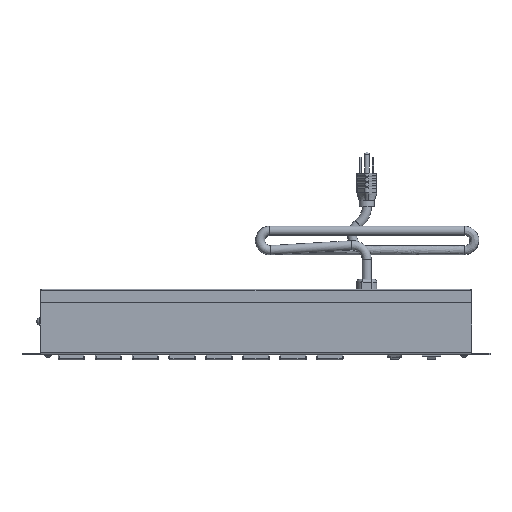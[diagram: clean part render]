
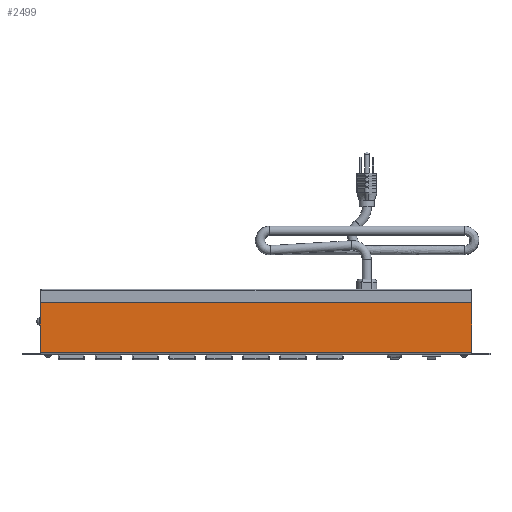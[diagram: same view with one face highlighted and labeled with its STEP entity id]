
A CAD part, front view. The second image highlights one B-rep face of the part: STEP entity #2499.
In plain terms, the highlighted planar face has unit normal (0, -1, 0).
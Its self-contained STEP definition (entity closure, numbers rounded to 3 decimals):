
#2290=CARTESIAN_POINT('',(-222.25,-21.819,2.588));
#2291=VERTEX_POINT('',#2290);
#2292=CARTESIAN_POINT('',(222.25,-21.819,2.588));
#2293=VERTEX_POINT('',#2292);
#2294=CARTESIAN_POINT('',(-222.25,-21.819,2.588));
#2295=DIRECTION('',(1.0,0.0,0.0));
#2296=VECTOR('',#2295,444.5);
#2297=LINE('',#2294,#2296);
#2298=EDGE_CURVE('',#2291,#2293,#2297,.T.);
#2348=CARTESIAN_POINT('',(222.25,-21.819,53.975));
#2349=VERTEX_POINT('',#2348);
#2356=CARTESIAN_POINT('',(222.25,-21.819,53.975));
#2357=DIRECTION('',(0.0,0.0,-1.0));
#2358=VECTOR('',#2357,51.387);
#2359=LINE('',#2356,#2358);
#2360=EDGE_CURVE('',#2349,#2293,#2359,.T.);
#2453=CARTESIAN_POINT('',(-222.25,-21.819,53.975));
#2454=VERTEX_POINT('',#2453);
#2455=CARTESIAN_POINT('',(-222.25,-21.819,2.588));
#2456=DIRECTION('',(0.0,0.0,1.0));
#2457=VECTOR('',#2456,51.388);
#2458=LINE('',#2455,#2457);
#2459=EDGE_CURVE('',#2291,#2454,#2458,.T.);
#2476=CARTESIAN_POINT('',(-222.25,-21.819,53.975));
#2477=DIRECTION('',(1.0,0.0,0.0));
#2478=VECTOR('',#2477,444.5);
#2479=LINE('',#2476,#2478);
#2480=EDGE_CURVE('',#2454,#2349,#2479,.T.);
#2488=CARTESIAN_POINT('',(0.,-21.819,26.947));
#2489=DIRECTION('',(0.0,1.0,0.0));
#2490=DIRECTION('',(1.0,0.0,0.0));
#2491=AXIS2_PLACEMENT_3D('',#2488,#2489,#2490);
#2492=PLANE('',#2491);
#2493=ORIENTED_EDGE('',*,*,#2298,.T.);
#2494=ORIENTED_EDGE('',*,*,#2360,.F.);
#2495=ORIENTED_EDGE('',*,*,#2480,.F.);
#2496=ORIENTED_EDGE('',*,*,#2459,.F.);
#2497=EDGE_LOOP('',(#2493,#2494,#2495,#2496));
#2498=FACE_OUTER_BOUND('',#2497,.T.);
#2499=ADVANCED_FACE('',(#2498),#2492,.F.);
